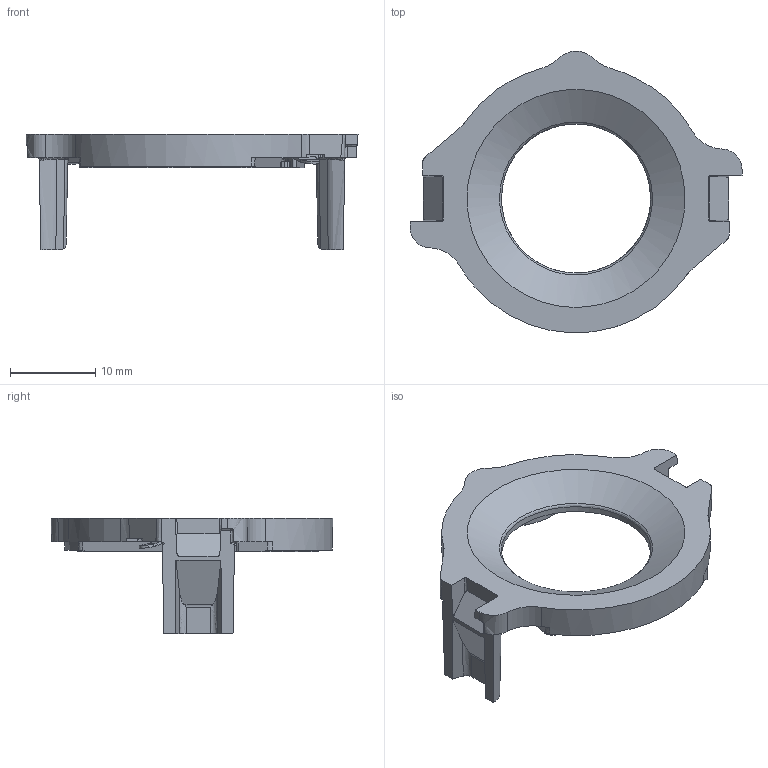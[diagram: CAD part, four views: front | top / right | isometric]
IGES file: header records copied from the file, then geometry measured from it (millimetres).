
Start section: C
Global section: file name: 025-709-03.igs; native system: By Siemens PLM Incorporated; preprocessor: XPlus GENERIC/IGES 23.0.61; author: Author; organization: Title; date: 20260216.130535; units: millimetre
Bounding box: 39 x 33.09 x 13.6 mm (x, y, z)
Volume: 1767.4 mm3; surface area: 2633 mm2
Topology: 2 solids, 2 shells, 506 faces, 1438 edges, 930 vertices
Faces by surface type: bspline 506
